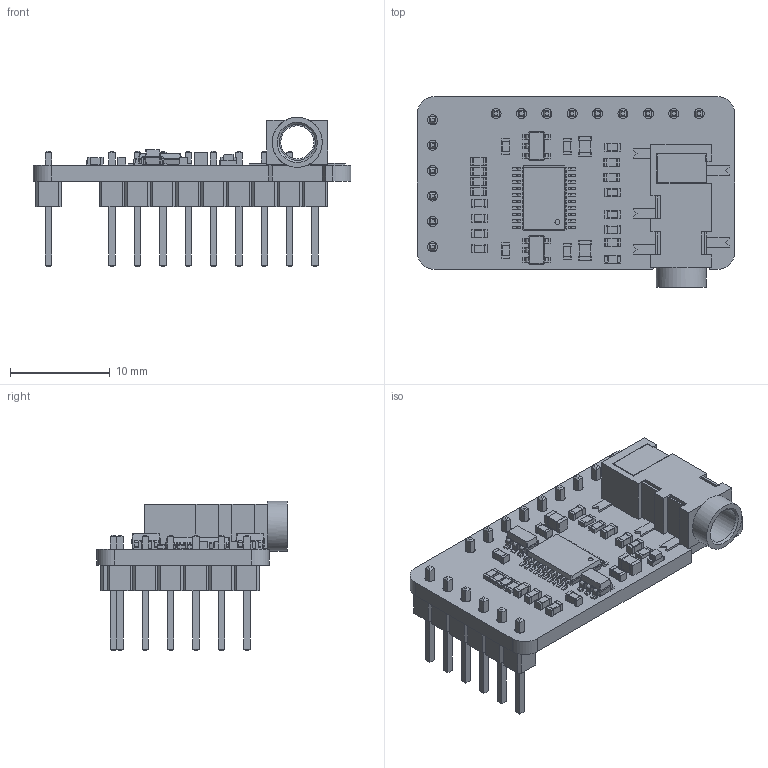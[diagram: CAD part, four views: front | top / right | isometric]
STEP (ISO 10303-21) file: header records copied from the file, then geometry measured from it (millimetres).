
FILE_DESCRIPTION(('FreeCAD Model'),'2;1');
FILE_NAME('Open CASCADE Shape Model','2025-02-16T17:27:35',( 'kicad StepUp'),('ksu MCAD'),'Open CASCADE STEP processor 7.8', 'FreeCAD','Unknown');
FILE_SCHEMA(('AUTOMOTIVE_DESIGN { 1 0 10303 214 1 1 1 1 }'));
Length unit declared in the file: millimetre
Products named in the file (15): PCM5102_Modul; Board_Geoms_e102; Pcb_e102; Step_Models_e102; Top_e102; C13_C_0603_1608Metric_fe494fe29558; U3_SOT_23_5_215b9efe0f9c; U2_TSSOP_20_44x65mm_P065mm_d0068de2549f; R7_R_0603_1608Metric_fcd2d6c932f5; C2_C_0805_2012Metric_0ac201e7e1f9; J3_PJ-327A_7183a15533ae; D1_LED_0603_1608Metric_b5c2f6ca02fa; Bot_e102; J2_PinHeader_1x09_P254mm_Vertical_94b9bb8abd76; J1_PinHeader_1x06_P254mm_Vertical_a7862d32d6b2
Assembly tree (34 placements, depth 4):
  PCM5102_Modul
    Board_Geoms_e102
      Pcb_e102
    Step_Models_e102
      Top_e102
        C13_C_0603_1608Metric_fe494fe29558  x12
        U3_SOT_23_5_215b9efe0f9c  x2
        U2_TSSOP_20_44x65mm_P065mm_d0068de2549f
        R7_R_0603_1608Metric_fcd2d6c932f5  x7
        C2_C_0805_2012Metric_0ac201e7e1f9  x2
        J3_PJ-327A_7183a15533ae  x2
        D1_LED_0603_1608Metric_b5c2f6ca02fa
      Bot_e102
        J2_PinHeader_1x09_P254mm_Vertical_94b9bb8abd76
        J1_PinHeader_1x06_P254mm_Vertical_a7862d32d6b2
Bounding box: 31.8 x 19.1 x 14.94 mm (x, y, z)
Volume: 1624.7 mm3; surface area: 3524.3 mm2
Topology: 30 solids, 30 shells, 1785 faces, 4609 edges, 2950 vertices
Faces by surface type: plane 1293, cylinder 384, bspline 102, torus 4, cone 2
Full cylindrical faces by diameter (mm): 0.5 x1, 0.8 x4, 1 x15, 1.1 x2, 3.3 x2, 3.6 x2, 5 x2
Entity records: 42001 total; most frequent: CARTESIAN_POINT 5923, ORIENTED_EDGE 5548, DIRECTION 5136, EDGE_CURVE 2773, LINE 2366, VECTOR 2366, VERTEX_POINT 1752, AXIS2_PLACEMENT_3D 1385
